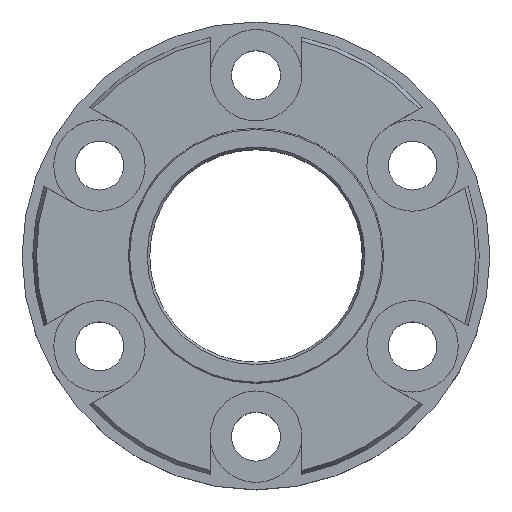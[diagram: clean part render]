
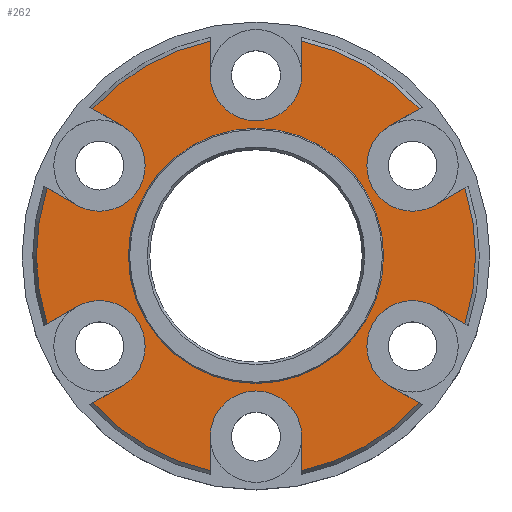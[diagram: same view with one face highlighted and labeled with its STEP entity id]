
A CAD part, top view. The second image highlights one B-rep face of the part: STEP entity #262.
In plain terms, the highlighted planar face has unit normal (0, 0, 1).
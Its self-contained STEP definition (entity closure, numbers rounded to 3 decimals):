
#36=PLANE('',#1004);
#81=FACE_BOUND('',#364,.T.);
#82=FACE_BOUND('',#365,.T.);
#181=LINE('',#1553,#229);
#182=LINE('',#1554,#230);
#183=LINE('',#1555,#231);
#184=LINE('',#1556,#232);
#185=LINE('',#1557,#233);
#186=LINE('',#1558,#234);
#187=LINE('',#1559,#235);
#188=LINE('',#1560,#236);
#189=LINE('',#1561,#237);
#190=LINE('',#1562,#238);
#191=LINE('',#1563,#239);
#192=LINE('',#1564,#240);
#229=VECTOR('',#1221,1.);
#230=VECTOR('',#1222,1.);
#231=VECTOR('',#1223,1.);
#232=VECTOR('',#1224,1.);
#233=VECTOR('',#1225,1.);
#234=VECTOR('',#1226,1.);
#235=VECTOR('',#1227,1.);
#236=VECTOR('',#1228,1.);
#237=VECTOR('',#1229,1.);
#238=VECTOR('',#1230,1.);
#239=VECTOR('',#1231,1.);
#240=VECTOR('',#1232,1.);
#262=ADVANCED_FACE('',(#81,#82),#36,.T.);
#364=EDGE_LOOP('',(#543,#544,#545,#546,#547,#548,#549,#550,#551,#552,#553,
#554,#555,#556,#557,#558,#559,#560,#561,#562,#563,#564,#565,#566));
#365=EDGE_LOOP('',(#567));
#543=ORIENTED_EDGE('',*,*,#851,.F.);
#544=ORIENTED_EDGE('',*,*,#774,.T.);
#545=ORIENTED_EDGE('',*,*,#852,.F.);
#546=ORIENTED_EDGE('',*,*,#768,.T.);
#547=ORIENTED_EDGE('',*,*,#853,.F.);
#548=ORIENTED_EDGE('',*,*,#827,.F.);
#549=ORIENTED_EDGE('',*,*,#854,.F.);
#550=ORIENTED_EDGE('',*,*,#814,.T.);
#551=ORIENTED_EDGE('',*,*,#855,.F.);
#552=ORIENTED_EDGE('',*,*,#822,.F.);
#553=ORIENTED_EDGE('',*,*,#856,.F.);
#554=ORIENTED_EDGE('',*,*,#802,.T.);
#555=ORIENTED_EDGE('',*,*,#857,.F.);
#556=ORIENTED_EDGE('',*,*,#810,.F.);
#557=ORIENTED_EDGE('',*,*,#858,.F.);
#558=ORIENTED_EDGE('',*,*,#790,.T.);
#559=ORIENTED_EDGE('',*,*,#859,.F.);
#560=ORIENTED_EDGE('',*,*,#798,.T.);
#561=ORIENTED_EDGE('',*,*,#860,.F.);
#562=ORIENTED_EDGE('',*,*,#778,.T.);
#563=ORIENTED_EDGE('',*,*,#861,.F.);
#564=ORIENTED_EDGE('',*,*,#786,.T.);
#565=ORIENTED_EDGE('',*,*,#862,.F.);
#566=ORIENTED_EDGE('',*,*,#759,.T.);
#567=ORIENTED_EDGE('',*,*,#863,.T.);
#670=VERTEX_POINT('',#1333);
#671=VERTEX_POINT('',#1335);
#678=VERTEX_POINT('',#1357);
#679=VERTEX_POINT('',#1358);
#683=VERTEX_POINT('',#1374);
#684=VERTEX_POINT('',#1376);
#687=VERTEX_POINT('',#1386);
#688=VERTEX_POINT('',#1388);
#694=VERTEX_POINT('',#1406);
#695=VERTEX_POINT('',#1408);
#698=VERTEX_POINT('',#1418);
#699=VERTEX_POINT('',#1420);
#705=VERTEX_POINT('',#1438);
#706=VERTEX_POINT('',#1440);
#709=VERTEX_POINT('',#1450);
#710=VERTEX_POINT('',#1452);
#716=VERTEX_POINT('',#1470);
#717=VERTEX_POINT('',#1472);
#720=VERTEX_POINT('',#1482);
#721=VERTEX_POINT('',#1484);
#727=VERTEX_POINT('',#1502);
#728=VERTEX_POINT('',#1504);
#732=VERTEX_POINT('',#1513);
#733=VERTEX_POINT('',#1515);
#744=VERTEX_POINT('',#1566);
#759=EDGE_CURVE('',#671,#670,#877,.T.);
#768=EDGE_CURVE('',#678,#679,#881,.T.);
#774=EDGE_CURVE('',#684,#683,#884,.T.);
#778=EDGE_CURVE('',#688,#687,#886,.T.);
#786=EDGE_CURVE('',#695,#694,#890,.T.);
#790=EDGE_CURVE('',#699,#698,#892,.T.);
#798=EDGE_CURVE('',#706,#705,#896,.T.);
#802=EDGE_CURVE('',#710,#709,#898,.T.);
#810=EDGE_CURVE('',#716,#717,#902,.T.);
#814=EDGE_CURVE('',#721,#720,#904,.T.);
#822=EDGE_CURVE('',#727,#728,#908,.T.);
#827=EDGE_CURVE('',#732,#733,#911,.T.);
#851=EDGE_CURVE('',#684,#670,#181,.T.);
#852=EDGE_CURVE('',#678,#683,#182,.T.);
#853=EDGE_CURVE('',#733,#679,#183,.T.);
#854=EDGE_CURVE('',#721,#732,#184,.T.);
#855=EDGE_CURVE('',#728,#720,#185,.T.);
#856=EDGE_CURVE('',#710,#727,#186,.T.);
#857=EDGE_CURVE('',#717,#709,#187,.T.);
#858=EDGE_CURVE('',#699,#716,#188,.T.);
#859=EDGE_CURVE('',#706,#698,#189,.T.);
#860=EDGE_CURVE('',#688,#705,#190,.T.);
#861=EDGE_CURVE('',#695,#687,#191,.T.);
#862=EDGE_CURVE('',#671,#694,#192,.T.);
#863=EDGE_CURVE('',#744,#744,#922,.T.);
#877=CIRCLE('',#937,10.327);
#881=CIRCLE('',#944,10.327);
#884=CIRCLE('',#948,2.15);
#886=CIRCLE('',#951,10.327);
#890=CIRCLE('',#957,2.15);
#892=CIRCLE('',#960,10.327);
#896=CIRCLE('',#966,2.15);
#898=CIRCLE('',#969,10.327);
#902=CIRCLE('',#975,2.15);
#904=CIRCLE('',#978,10.327);
#908=CIRCLE('',#984,2.15);
#911=CIRCLE('',#988,2.15);
#922=CIRCLE('',#1003,6.);
#937=AXIS2_PLACEMENT_3D('',#1334,#1053,#1054);
#944=AXIS2_PLACEMENT_3D('',#1356,#1071,#1072);
#948=AXIS2_PLACEMENT_3D('',#1375,#1080,#1081);
#951=AXIS2_PLACEMENT_3D('',#1387,#1087,#1088);
#957=AXIS2_PLACEMENT_3D('',#1407,#1102,#1103);
#960=AXIS2_PLACEMENT_3D('',#1419,#1109,#1110);
#966=AXIS2_PLACEMENT_3D('',#1439,#1124,#1125);
#969=AXIS2_PLACEMENT_3D('',#1451,#1131,#1132);
#975=AXIS2_PLACEMENT_3D('',#1471,#1146,#1147);
#978=AXIS2_PLACEMENT_3D('',#1483,#1153,#1154);
#984=AXIS2_PLACEMENT_3D('',#1503,#1168,#1169);
#988=AXIS2_PLACEMENT_3D('',#1514,#1178,#1179);
#1003=AXIS2_PLACEMENT_3D('',#1565,#1233,#1234);
#1004=AXIS2_PLACEMENT_3D('',#1567,#1235,#1236);
#1053=DIRECTION('',(0.,0.,1.));
#1054=DIRECTION('',(1.,0.,0.));
#1071=DIRECTION('',(0.,0.,1.));
#1072=DIRECTION('',(1.,0.,0.));
#1080=DIRECTION('',(0.,0.,-1.));
#1081=DIRECTION('',(-0.866,-0.5,0.));
#1087=DIRECTION('',(0.,0.,1.));
#1088=DIRECTION('',(1.,0.,0.));
#1102=DIRECTION('',(0.,0.,-1.));
#1103=DIRECTION('',(-0.866,0.5,0.));
#1109=DIRECTION('',(0.,0.,1.));
#1110=DIRECTION('',(1.,0.,0.));
#1124=DIRECTION('',(0.,0.,-1.));
#1125=DIRECTION('',(0.,1.,0.));
#1131=DIRECTION('',(0.,0.,1.));
#1132=DIRECTION('',(1.,0.,0.));
#1146=DIRECTION('',(0.,0.,1.));
#1147=DIRECTION('',(0.866,0.5,0.));
#1153=DIRECTION('',(0.,0.,1.));
#1154=DIRECTION('',(1.,0.,0.));
#1168=DIRECTION('',(0.,0.,1.));
#1169=DIRECTION('',(0.866,-0.5,0.));
#1178=DIRECTION('',(0.,0.,1.));
#1179=DIRECTION('',(0.,-1.,0.));
#1221=DIRECTION('',(0.866,0.5,0.));
#1222=DIRECTION('',(-0.866,-0.5,0.));
#1223=DIRECTION('',(0.,1.,0.));
#1224=DIRECTION('',(0.,-1.,0.));
#1225=DIRECTION('',(-0.866,0.5,0.));
#1226=DIRECTION('',(0.866,-0.5,0.));
#1227=DIRECTION('',(-0.866,-0.5,0.));
#1228=DIRECTION('',(0.866,0.5,0.));
#1229=DIRECTION('',(0.,-1.,0.));
#1230=DIRECTION('',(0.,1.,0.));
#1231=DIRECTION('',(0.866,-0.5,0.));
#1232=DIRECTION('',(-0.866,0.5,0.));
#1233=DIRECTION('',(0.,0.,-1.));
#1234=DIRECTION('',(1.,0.,0.));
#1235=DIRECTION('',(0.,0.,1.));
#1236=DIRECTION('',(1.,0.,0.));
#1333=CARTESIAN_POINT('',(9.822,3.188,6.2));
#1334=CARTESIAN_POINT('',(0.,0.,6.2));
#1335=CARTESIAN_POINT('',(9.822,-3.188,6.2));
#1356=CARTESIAN_POINT('',(0.,0.,6.2));
#1357=CARTESIAN_POINT('',(7.672,6.912,6.2));
#1358=CARTESIAN_POINT('',(2.15,10.101,6.2));
#1374=CARTESIAN_POINT('',(6.286,6.112,6.2));
#1375=CARTESIAN_POINT('',(7.361,4.25,6.2));
#1376=CARTESIAN_POINT('',(8.436,2.388,6.2));
#1386=CARTESIAN_POINT('',(7.672,-6.912,6.2));
#1387=CARTESIAN_POINT('',(0.,0.,6.2));
#1388=CARTESIAN_POINT('',(2.15,-10.101,6.2));
#1406=CARTESIAN_POINT('',(8.436,-2.388,6.2));
#1407=CARTESIAN_POINT('',(7.361,-4.25,6.2));
#1408=CARTESIAN_POINT('',(6.286,-6.112,6.2));
#1418=CARTESIAN_POINT('',(-2.15,-10.101,6.2));
#1419=CARTESIAN_POINT('',(0.,0.,6.2));
#1420=CARTESIAN_POINT('',(-7.672,-6.912,6.2));
#1438=CARTESIAN_POINT('',(2.15,-8.5,6.2));
#1439=CARTESIAN_POINT('',(0.,-8.5,6.2));
#1440=CARTESIAN_POINT('',(-2.15,-8.5,6.2));
#1450=CARTESIAN_POINT('',(-9.822,-3.188,6.2));
#1451=CARTESIAN_POINT('',(0.,0.,6.2));
#1452=CARTESIAN_POINT('',(-9.822,3.188,6.2));
#1470=CARTESIAN_POINT('',(-6.286,-6.112,6.2));
#1471=CARTESIAN_POINT('',(-7.361,-4.25,6.2));
#1472=CARTESIAN_POINT('',(-8.436,-2.388,6.2));
#1482=CARTESIAN_POINT('',(-7.672,6.912,6.2));
#1483=CARTESIAN_POINT('',(0.,0.,6.2));
#1484=CARTESIAN_POINT('',(-2.15,10.101,6.2));
#1502=CARTESIAN_POINT('',(-8.436,2.388,6.2));
#1503=CARTESIAN_POINT('',(-7.361,4.25,6.2));
#1504=CARTESIAN_POINT('',(-6.286,6.112,6.2));
#1513=CARTESIAN_POINT('',(-2.15,8.5,6.2));
#1514=CARTESIAN_POINT('',(0.,8.5,6.2));
#1515=CARTESIAN_POINT('',(2.15,8.5,6.2));
#1553=CARTESIAN_POINT('',(8.436,2.388,6.2));
#1554=CARTESIAN_POINT('',(10.616,8.612,6.2));
#1555=CARTESIAN_POINT('',(2.15,8.5,6.2));
#1556=CARTESIAN_POINT('',(-2.15,13.5,6.2));
#1557=CARTESIAN_POINT('',(-6.286,6.112,6.2));
#1558=CARTESIAN_POINT('',(-12.766,4.888,6.2));
#1559=CARTESIAN_POINT('',(-8.436,-2.388,6.2));
#1560=CARTESIAN_POINT('',(-10.616,-8.612,6.2));
#1561=CARTESIAN_POINT('',(-2.15,-8.5,6.2));
#1562=CARTESIAN_POINT('',(2.15,-13.5,6.2));
#1563=CARTESIAN_POINT('',(6.286,-6.112,6.2));
#1564=CARTESIAN_POINT('',(12.766,-4.888,6.2));
#1565=CARTESIAN_POINT('',(0.,0.,6.2));
#1566=CARTESIAN_POINT('',(6.,0.,6.2));
#1567=CARTESIAN_POINT('',(0.,0.,6.2));
